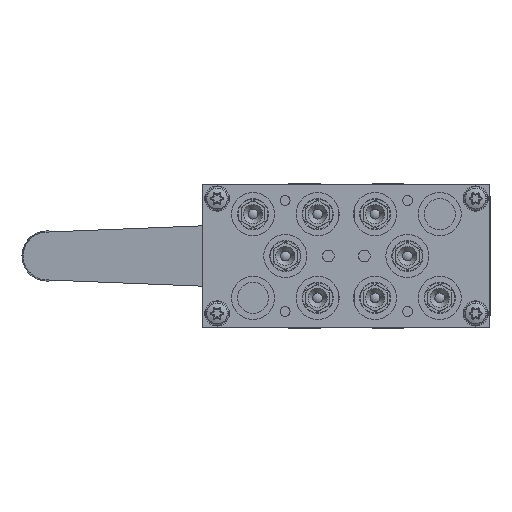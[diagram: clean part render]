
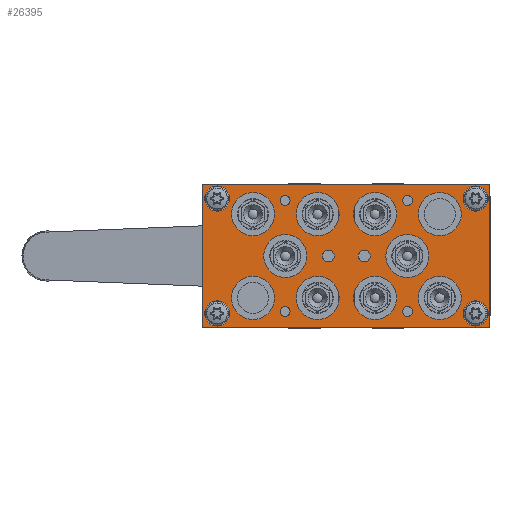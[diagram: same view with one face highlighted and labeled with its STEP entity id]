
A CAD part, left-side view. The second image highlights one B-rep face of the part: STEP entity #26395.
In plain terms, the highlighted planar face has unit normal (-1, 0, 0) as drawn and (0, 0, 1) by its records, which use the part's own axes.
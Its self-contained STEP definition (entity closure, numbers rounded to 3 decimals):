
#2506=LINE('',#63242,#3555);
#2510=LINE('',#63253,#3559);
#2514=LINE('',#63398,#3563);
#2515=LINE('',#63399,#3564);
#3555=VECTOR('',#32747,1000.);
#3559=VECTOR('',#32755,1000.);
#3563=VECTOR('',#32915,1000.);
#3564=VECTOR('',#32916,1000.);
#3983=PLANE('',#28283);
#9121=ORIENTED_EDGE('',*,*,#11911,.F.);
#9122=ORIENTED_EDGE('',*,*,#11912,.F.);
#9123=ORIENTED_EDGE('',*,*,#11913,.F.);
#9124=ORIENTED_EDGE('',*,*,#11914,.F.);
#9125=ORIENTED_EDGE('',*,*,#11915,.F.);
#9126=ORIENTED_EDGE('',*,*,#11916,.F.);
#9127=ORIENTED_EDGE('',*,*,#11917,.T.);
#9128=ORIENTED_EDGE('',*,*,#11918,.T.);
#9129=ORIENTED_EDGE('',*,*,#11919,.T.);
#9130=ORIENTED_EDGE('',*,*,#11920,.T.);
#9131=ORIENTED_EDGE('',*,*,#11921,.T.);
#9132=ORIENTED_EDGE('',*,*,#11922,.T.);
#9133=ORIENTED_EDGE('',*,*,#11923,.T.);
#9134=ORIENTED_EDGE('',*,*,#11853,.T.);
#9135=ORIENTED_EDGE('',*,*,#11924,.T.);
#9136=ORIENTED_EDGE('',*,*,#11858,.T.);
#9137=ORIENTED_EDGE('',*,*,#11925,.T.);
#9138=ORIENTED_EDGE('',*,*,#11926,.T.);
#9139=ORIENTED_EDGE('',*,*,#11927,.T.);
#9140=ORIENTED_EDGE('',*,*,#11928,.T.);
#9141=ORIENTED_EDGE('',*,*,#11929,.T.);
#9142=ORIENTED_EDGE('',*,*,#11930,.T.);
#9143=ORIENTED_EDGE('',*,*,#11931,.T.);
#9144=ORIENTED_EDGE('',*,*,#11932,.T.);
#11853=EDGE_CURVE('',#13566,#13565,#2506,.T.);
#11858=EDGE_CURVE('',#13571,#13570,#2510,.T.);
#11911=EDGE_CURVE('',#13621,#13621,#14455,.T.);
#11912=EDGE_CURVE('',#13622,#13622,#14456,.T.);
#11913=EDGE_CURVE('',#13623,#13623,#14457,.T.);
#11914=EDGE_CURVE('',#13624,#13624,#14458,.T.);
#11915=EDGE_CURVE('',#13625,#13625,#14459,.T.);
#11916=EDGE_CURVE('',#13626,#13626,#14460,.T.);
#11917=EDGE_CURVE('',#13627,#13627,#14461,.T.);
#11918=EDGE_CURVE('',#13628,#13628,#14462,.T.);
#11919=EDGE_CURVE('',#13629,#13629,#14463,.T.);
#11920=EDGE_CURVE('',#13630,#13630,#14464,.T.);
#11921=EDGE_CURVE('',#13631,#13631,#14465,.T.);
#11922=EDGE_CURVE('',#13632,#13632,#14466,.T.);
#11923=EDGE_CURVE('',#13633,#13633,#14467,.T.);
#11924=EDGE_CURVE('',#13565,#13571,#2514,.T.);
#11925=EDGE_CURVE('',#13570,#13566,#2515,.T.);
#11926=EDGE_CURVE('',#13634,#13634,#14468,.T.);
#11927=EDGE_CURVE('',#13635,#13635,#14469,.T.);
#11928=EDGE_CURVE('',#13636,#13636,#14470,.T.);
#11929=EDGE_CURVE('',#13637,#13637,#14471,.T.);
#11930=EDGE_CURVE('',#13638,#13638,#14472,.T.);
#11931=EDGE_CURVE('',#13639,#13639,#14473,.T.);
#11932=EDGE_CURVE('',#13640,#13640,#14474,.T.);
#13565=VERTEX_POINT('',#63241);
#13566=VERTEX_POINT('',#63243);
#13570=VERTEX_POINT('',#63252);
#13571=VERTEX_POINT('',#63254);
#13621=VERTEX_POINT('',#63373);
#13622=VERTEX_POINT('',#63375);
#13623=VERTEX_POINT('',#63377);
#13624=VERTEX_POINT('',#63379);
#13625=VERTEX_POINT('',#63381);
#13626=VERTEX_POINT('',#63383);
#13627=VERTEX_POINT('',#63385);
#13628=VERTEX_POINT('',#63387);
#13629=VERTEX_POINT('',#63389);
#13630=VERTEX_POINT('',#63391);
#13631=VERTEX_POINT('',#63393);
#13632=VERTEX_POINT('',#63395);
#13633=VERTEX_POINT('',#63397);
#13634=VERTEX_POINT('',#63401);
#13635=VERTEX_POINT('',#63403);
#13636=VERTEX_POINT('',#63405);
#13637=VERTEX_POINT('',#63407);
#13638=VERTEX_POINT('',#63409);
#13639=VERTEX_POINT('',#63411);
#13640=VERTEX_POINT('',#63413);
#14455=CIRCLE('',#28284,2.067);
#14456=CIRCLE('',#28285,2.067);
#14457=CIRCLE('',#28286,2.067);
#14458=CIRCLE('',#28287,2.067);
#14459=CIRCLE('',#28288,2.459);
#14460=CIRCLE('',#28289,2.459);
#14461=CIRCLE('',#28290,9.);
#14462=CIRCLE('',#28291,9.);
#14463=CIRCLE('',#28292,9.);
#14464=CIRCLE('',#28293,9.);
#14465=CIRCLE('',#28294,9.);
#14466=CIRCLE('',#28295,5.25);
#14467=CIRCLE('',#28296,5.25);
#14468=CIRCLE('',#28297,5.25);
#14469=CIRCLE('',#28298,9.);
#14470=CIRCLE('',#28299,9.);
#14471=CIRCLE('',#28300,9.);
#14472=CIRCLE('',#28301,9.);
#14473=CIRCLE('',#28302,9.);
#14474=CIRCLE('',#28303,5.25);
#15871=EDGE_LOOP('',(#9121));
#15872=EDGE_LOOP('',(#9122));
#15873=EDGE_LOOP('',(#9123));
#15874=EDGE_LOOP('',(#9124));
#15875=EDGE_LOOP('',(#9125));
#15876=EDGE_LOOP('',(#9126));
#15877=EDGE_LOOP('',(#9127));
#15878=EDGE_LOOP('',(#9128));
#15879=EDGE_LOOP('',(#9129));
#15880=EDGE_LOOP('',(#9130));
#15881=EDGE_LOOP('',(#9131));
#15882=EDGE_LOOP('',(#9132));
#15883=EDGE_LOOP('',(#9133));
#15884=EDGE_LOOP('',(#9134,#9135,#9136,#9137));
#15885=EDGE_LOOP('',(#9138));
#15886=EDGE_LOOP('',(#9139));
#15887=EDGE_LOOP('',(#9140));
#15888=EDGE_LOOP('',(#9141));
#15889=EDGE_LOOP('',(#9142));
#15890=EDGE_LOOP('',(#9143));
#15891=EDGE_LOOP('',(#9144));
#17390=FACE_BOUND('',#15871,.T.);
#17391=FACE_BOUND('',#15872,.T.);
#17392=FACE_BOUND('',#15873,.T.);
#17393=FACE_BOUND('',#15874,.T.);
#17394=FACE_BOUND('',#15875,.T.);
#17395=FACE_BOUND('',#15876,.T.);
#17396=FACE_BOUND('',#15877,.T.);
#17397=FACE_BOUND('',#15878,.T.);
#17398=FACE_BOUND('',#15879,.T.);
#17399=FACE_BOUND('',#15880,.T.);
#17400=FACE_BOUND('',#15881,.T.);
#17401=FACE_BOUND('',#15882,.T.);
#17402=FACE_BOUND('',#15883,.T.);
#17403=FACE_BOUND('',#15884,.T.);
#17404=FACE_BOUND('',#15885,.T.);
#17405=FACE_BOUND('',#15886,.T.);
#17406=FACE_BOUND('',#15887,.T.);
#17407=FACE_BOUND('',#15888,.T.);
#17408=FACE_BOUND('',#15889,.T.);
#17409=FACE_BOUND('',#15890,.T.);
#17410=FACE_BOUND('',#15891,.T.);
#26395=ADVANCED_FACE('',(#17390,#17391,#17392,#17393,#17394,#17395,#17396,
#17397,#17398,#17399,#17400,#17401,#17402,#17403,#17404,#17405,#17406,#17407,
#17408,#17409,#17410),#3983,.T.);
#28283=AXIS2_PLACEMENT_3D('',#63371,#32887,#32888);
#28284=AXIS2_PLACEMENT_3D('',#63372,#32889,#32890);
#28285=AXIS2_PLACEMENT_3D('',#63374,#32891,#32892);
#28286=AXIS2_PLACEMENT_3D('',#63376,#32893,#32894);
#28287=AXIS2_PLACEMENT_3D('',#63378,#32895,#32896);
#28288=AXIS2_PLACEMENT_3D('',#63380,#32897,#32898);
#28289=AXIS2_PLACEMENT_3D('',#63382,#32899,#32900);
#28290=AXIS2_PLACEMENT_3D('',#63384,#32901,#32902);
#28291=AXIS2_PLACEMENT_3D('',#63386,#32903,#32904);
#28292=AXIS2_PLACEMENT_3D('',#63388,#32905,#32906);
#28293=AXIS2_PLACEMENT_3D('',#63390,#32907,#32908);
#28294=AXIS2_PLACEMENT_3D('',#63392,#32909,#32910);
#28295=AXIS2_PLACEMENT_3D('',#63394,#32911,#32912);
#28296=AXIS2_PLACEMENT_3D('',#63396,#32913,#32914);
#28297=AXIS2_PLACEMENT_3D('',#63400,#32917,#32918);
#28298=AXIS2_PLACEMENT_3D('',#63402,#32919,#32920);
#28299=AXIS2_PLACEMENT_3D('',#63404,#32921,#32922);
#28300=AXIS2_PLACEMENT_3D('',#63406,#32923,#32924);
#28301=AXIS2_PLACEMENT_3D('',#63408,#32925,#32926);
#28302=AXIS2_PLACEMENT_3D('',#63410,#32927,#32928);
#28303=AXIS2_PLACEMENT_3D('',#63412,#32929,#32930);
#32747=DIRECTION('',(-1.,0.,0.));
#32755=DIRECTION('',(1.,0.,0.));
#32887=DIRECTION('',(0.,0.,1.));
#32888=DIRECTION('',(1.,0.,0.));
#32889=DIRECTION('',(0.,0.,1.));
#32890=DIRECTION('',(1.,0.,0.));
#32891=DIRECTION('',(0.,0.,1.));
#32892=DIRECTION('',(1.,0.,0.));
#32893=DIRECTION('',(0.,0.,1.));
#32894=DIRECTION('',(1.,0.,0.));
#32895=DIRECTION('',(0.,0.,1.));
#32896=DIRECTION('',(1.,0.,0.));
#32897=DIRECTION('',(0.,0.,1.));
#32898=DIRECTION('',(1.,0.,0.));
#32899=DIRECTION('',(0.,0.,1.));
#32900=DIRECTION('',(1.,0.,0.));
#32901=DIRECTION('',(0.,0.,-1.));
#32902=DIRECTION('',(1.,0.,0.));
#32903=DIRECTION('',(0.,0.,-1.));
#32904=DIRECTION('',(1.,0.,0.));
#32905=DIRECTION('',(0.,0.,-1.));
#32906=DIRECTION('',(1.,0.,0.));
#32907=DIRECTION('',(0.,0.,-1.));
#32908=DIRECTION('',(1.,0.,0.));
#32909=DIRECTION('',(0.,0.,-1.));
#32910=DIRECTION('',(1.,0.,0.));
#32911=DIRECTION('',(0.,0.,-1.));
#32912=DIRECTION('',(1.,0.,0.));
#32913=DIRECTION('',(0.,0.,-1.));
#32914=DIRECTION('',(1.,0.,0.));
#32915=DIRECTION('',(0.,-1.,0.));
#32916=DIRECTION('',(0.,1.,0.));
#32917=DIRECTION('',(0.,0.,-1.));
#32918=DIRECTION('',(1.,0.,0.));
#32919=DIRECTION('',(0.,0.,-1.));
#32920=DIRECTION('',(1.,0.,0.));
#32921=DIRECTION('',(0.,0.,-1.));
#32922=DIRECTION('',(1.,0.,0.));
#32923=DIRECTION('',(0.,0.,-1.));
#32924=DIRECTION('',(1.,0.,0.));
#32925=DIRECTION('',(0.,0.,-1.));
#32926=DIRECTION('',(1.,0.,0.));
#32927=DIRECTION('',(0.,0.,-1.));
#32928=DIRECTION('',(1.,0.,0.));
#32929=DIRECTION('',(0.,0.,-1.));
#32930=DIRECTION('',(1.,0.,0.));
#63241=CARTESIAN_POINT('',(-60.,30.,15.));
#63242=CARTESIAN_POINT('',(60.,30.,15.));
#63243=CARTESIAN_POINT('',(60.,30.,15.));
#63252=CARTESIAN_POINT('',(60.,-30.,15.));
#63253=CARTESIAN_POINT('',(-60.,-30.,15.));
#63254=CARTESIAN_POINT('',(-60.,-30.,15.));
#63371=CARTESIAN_POINT('',(-60.,30.,15.));
#63372=CARTESIAN_POINT('',(25.6,23.2,15.));
#63373=CARTESIAN_POINT('',(27.667,23.2,15.));
#63374=CARTESIAN_POINT('',(-25.6,23.2,15.));
#63375=CARTESIAN_POINT('',(-23.533,23.2,15.));
#63376=CARTESIAN_POINT('',(-25.6,-23.2,15.));
#63377=CARTESIAN_POINT('',(-23.533,-23.2,15.));
#63378=CARTESIAN_POINT('',(25.6,-23.2,15.));
#63379=CARTESIAN_POINT('',(27.667,-23.2,15.));
#63380=CARTESIAN_POINT('',(7.5,0.,15.));
#63381=CARTESIAN_POINT('',(9.959,0.,15.));
#63382=CARTESIAN_POINT('',(-7.5,0.,15.));
#63383=CARTESIAN_POINT('',(-5.041,0.,15.));
#63384=CARTESIAN_POINT('',(25.5,0.,15.));
#63385=CARTESIAN_POINT('',(34.5,0.,15.));
#63386=CARTESIAN_POINT('',(39.,17.5,15.));
#63387=CARTESIAN_POINT('',(48.,17.5,15.));
#63388=CARTESIAN_POINT('',(-39.,-17.5,15.));
#63389=CARTESIAN_POINT('',(-30.,-17.5,15.));
#63390=CARTESIAN_POINT('',(-12.,-17.5,15.));
#63391=CARTESIAN_POINT('',(-3.,-17.5,15.));
#63392=CARTESIAN_POINT('',(12.,17.5,15.));
#63393=CARTESIAN_POINT('',(21.,17.5,15.));
#63394=CARTESIAN_POINT('',(-54.,-24.,15.));
#63395=CARTESIAN_POINT('',(-48.75,-24.,15.));
#63396=CARTESIAN_POINT('',(54.,24.,15.));
#63397=CARTESIAN_POINT('',(59.25,24.,15.));
#63398=CARTESIAN_POINT('',(-60.,30.,15.));
#63399=CARTESIAN_POINT('',(60.,-30.,15.));
#63400=CARTESIAN_POINT('',(54.,-24.,15.));
#63401=CARTESIAN_POINT('',(59.25,-24.,15.));
#63402=CARTESIAN_POINT('',(-12.,17.5,15.));
#63403=CARTESIAN_POINT('',(-3.,17.5,15.));
#63404=CARTESIAN_POINT('',(12.,-17.5,15.));
#63405=CARTESIAN_POINT('',(21.,-17.5,15.));
#63406=CARTESIAN_POINT('',(-39.,17.5,15.));
#63407=CARTESIAN_POINT('',(-30.,17.5,15.));
#63408=CARTESIAN_POINT('',(39.,-17.5,15.));
#63409=CARTESIAN_POINT('',(48.,-17.5,15.));
#63410=CARTESIAN_POINT('',(-25.5,0.,15.));
#63411=CARTESIAN_POINT('',(-16.5,0.,15.));
#63412=CARTESIAN_POINT('',(-54.,24.,15.));
#63413=CARTESIAN_POINT('',(-48.75,24.,15.));
